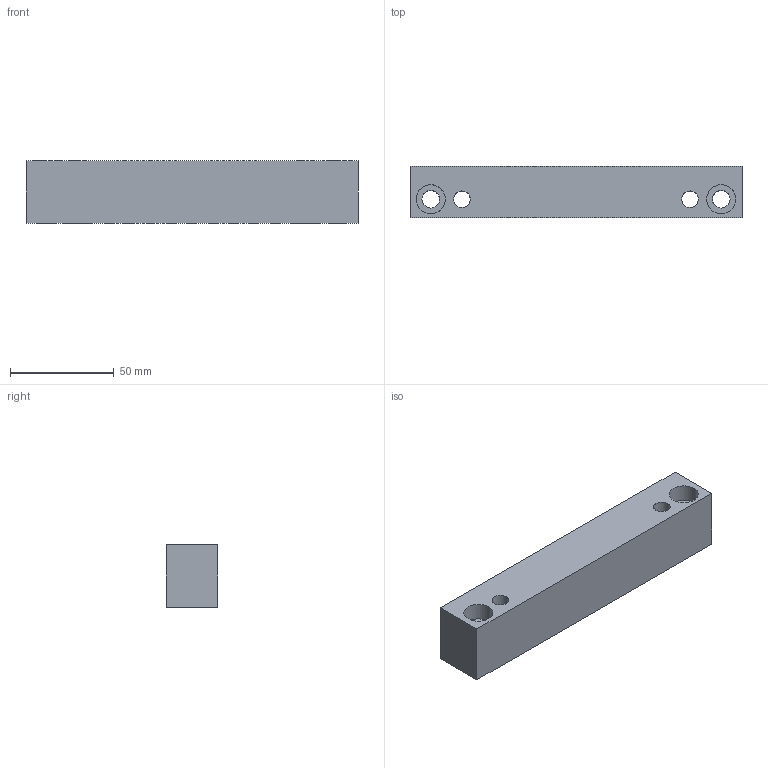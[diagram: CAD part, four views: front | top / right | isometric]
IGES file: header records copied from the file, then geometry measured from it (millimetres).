
Start section: START RECORD GO HERE.
Global section: file name: G40530160.igs; native system: DASSAULT SYSTEMES CATIA V5 R20 - www.3ds.com; preprocessor: CATIA Version 5 Release 20 ; author: r.borello; organization: CFTORINO; date: 20190624.145944; units: millimetre
Bounding box: 160 x 25 x 30 mm (x, y, z)
Surface area: 27390.2 mm2 (no closed solid volume)
Topology: 0 solids, 0 shells, 614 faces, 2628 edges, 2344 vertices
Faces by surface type: revolution 544, plane 70
